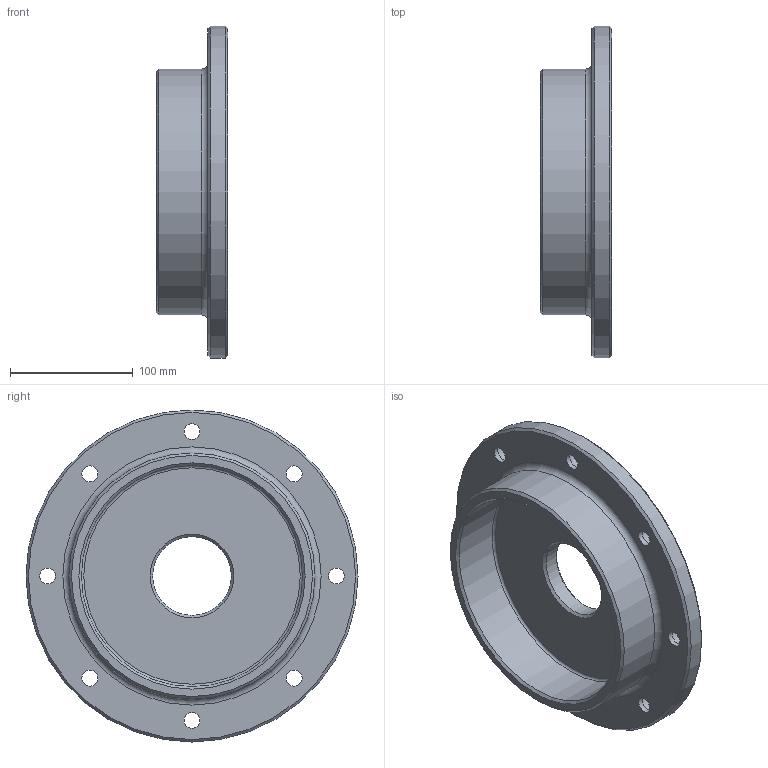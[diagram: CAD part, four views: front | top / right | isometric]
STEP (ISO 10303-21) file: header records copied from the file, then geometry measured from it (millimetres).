
FILE_DESCRIPTION(/* description */ (''),/* implementation_level */ '2;1');
FILE_NAME(/* name */ 'C:\Users\jbart\OneDrive\Plocha\Nová složka\3D modely - stp\Víčko.stp',/* time_stamp */ '2025-05-15T16:52:49+02:00',/* author */ ('jbart'),/* organization */ (''),/* preprocessor_version */ 'ST-DEVELOPER v18.1',/* originating_system */ 'Autodesk Inventor 2022',/* authorisation */ '');
FILE_SCHEMA (('AUTOMOTIVE_DESIGN { 1 0 10303 214 3 1 1 }'));
Length unit declared in the file: millimetre
Products named in the file (1): Víčko I
Bounding box: 58 x 270 x 270 mm (x, y, z)
Volume: 1078215.8 mm3; surface area: 174538.9 mm2
Topology: 1 solids, 1 shells, 40 faces, 84 edges, 56 vertices
Faces by surface type: cylinder 20, plane 12, cone 6, torus 2
Full cylindrical faces by diameter (mm): 13 x8, 20 x8, 64 x1, 180 x1, 200 x1, 270 x1
Entity records: 1183 total; most frequent: DIRECTION 224, CARTESIAN_POINT 181, ORIENTED_EDGE 168, AXIS2_PLACEMENT_3D 99, EDGE_CURVE 84, EDGE_LOOP 68, CIRCLE 58, VERTEX_POINT 56
